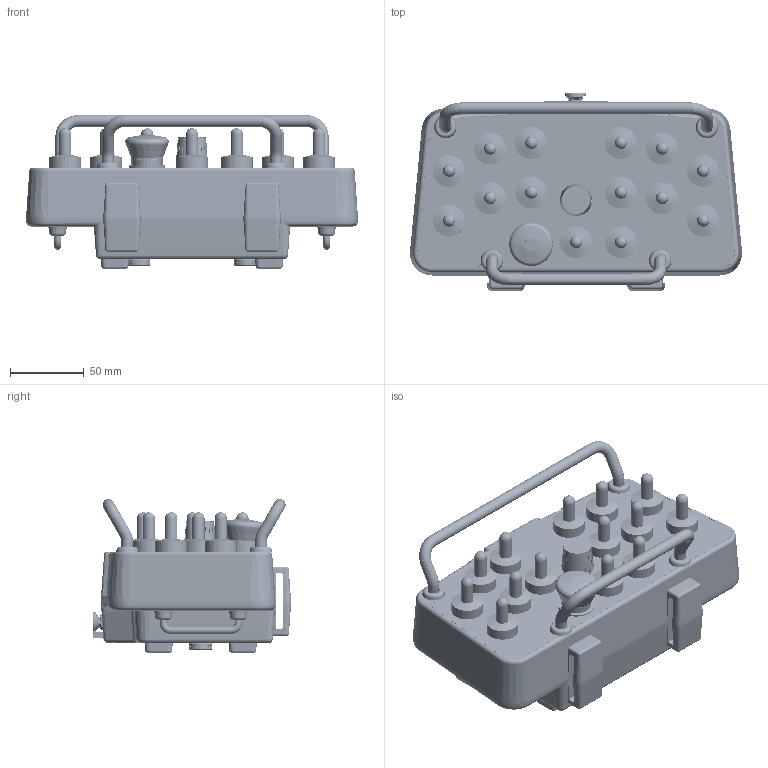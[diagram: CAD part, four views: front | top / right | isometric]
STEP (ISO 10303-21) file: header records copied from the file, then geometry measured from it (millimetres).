
FILE_DESCRIPTION(/* description */ (''),/* implementation_level */ '2;1');
FILE_NAME(/* name */ '8200_STRYKER_CUSTOMER_MODEL.step',/* time_stamp */ '2026-05-29T09:12:19-04:00',/* author */ (''),/* organization */ (''),/* preprocessor_version */ 'ST-DEVELOPER v20.1',/* originating_system */ 'Autodesk Translation Framework v15.8.0.0',/* authorisation */ '');
FILE_SCHEMA (('AUTOMOTIVE_DESIGN { 1 0 10303 214 3 1 1 }'));
Products named in the file (42): 8200_STRYKER_CUSTOMER_MODEL; GENERIC LXT v75; Enclosure top(R3); Enclosure Bottom(R6); LEXAN(R2); DISPLAY; 11096-03_T4; 11027-01_T1; Gasket(R2); EncoderAssembly; ENCODER; BODY 1; RearHandle(R2); FRONTHANDLE; batteryCover; SILICONE ORING; KNOB; SCREW-WASHER-ORING; Screw-Washer-Oring_1; SCREW; GASKET; WASHER; SCREW (1); 90273A150; MAG FEET; #192801; RED MUSHROOM SWITCH; NUT; SWITCH; VENT; Component214; Component215; GENERIC LXT OVERLAY v4; Barrel Charging Option FOR LXT/FRZ v2; LID; RB7 (1); Component2(Mirror) (1); Component3(Mirror) (1); BARREL PORT; BOTTOM HANDLE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
Assembly tree (69 placements, depth 5):
  8200_STRYKER_CUSTOMER_MODEL
    GENERIC LXT v75
      Enclosure top(R3)
      Enclosure Bottom(R6)
      LEXAN(R2)
      DISPLAY
        11096-03_T4
        11027-01_T1
      Gasket(R2)
      EncoderAssembly
        ENCODER
          BODY 1
      RearHandle(R2)
      FRONTHANDLE
      BOTTOM HANDLE  x2
      THUMB SCREW  x2
      batteryCover
      BOOT  x14
      SILICONE ORING
      KNOB
      SCREW-WASHER-ORING
        Screw-Washer-Oring_1  x8
          SCREW
          GASKET
          WASHER
      SCREW (1)
        90273A150  x4
      MAG FEET
        #192801  x4
      RED MUSHROOM SWITCH
        NUT
        SWITCH
      VENT
        Component214
        Component215
      GENERIC LXT OVERLAY v4
      Barrel Charging Option FOR LXT/FRZ v2
        LID
          RB7 (1)
          Component2(Mirror) (1)
          Component3(Mirror) (1)
        BARREL PORT
Bounding box: 225.64 x 134.65 x 104.68 mm (x, y, z)
Volume: 428155.8 mm3; surface area: 332895 mm2
Topology: 85 solids, 86 shells, 6444 faces, 16731 edges, 10600 vertices
Faces by surface type: plane 2906, cylinder 2630, cone 449, bspline 250, torus 146, sphere 63
Full cylindrical faces by diameter (mm): 0.62 x2, 0.8 x2, 1.016 x1, 1.049 x4, 1.27 x8, 1.397 x4, 1.575 x1, 1.829 x4, 1.93 x1, 1.935 x128, 1.984 x4, 2.431 x60, 2.54 x8, 2.642 x4, 2.73 x2, 3.048 x49, 3.175 x16, 3.2 x3, 3.505 x69, 3.556 x9, 3.795 x30, 3.8 x1, 3.81 x9, 3.969 x4, 4.762 x6, 4.826 x28, 4.953 x4, 5.08 x2, 5.156 x4, 5.461 x2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
Entity records: 192736 total; most frequent: CARTESIAN_POINT 87807, ORIENTED_EDGE 21816, DIRECTION 21519, EDGE_CURVE 10908, AXIS2_PLACEMENT_3D 7738, VERTEX_POINT 6958, LINE 6043, VECTOR 6043
